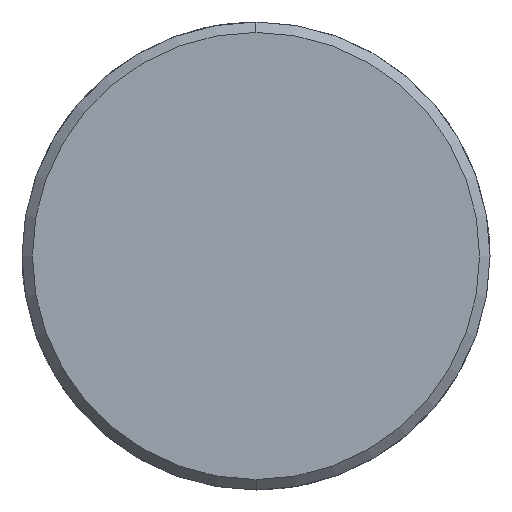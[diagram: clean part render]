
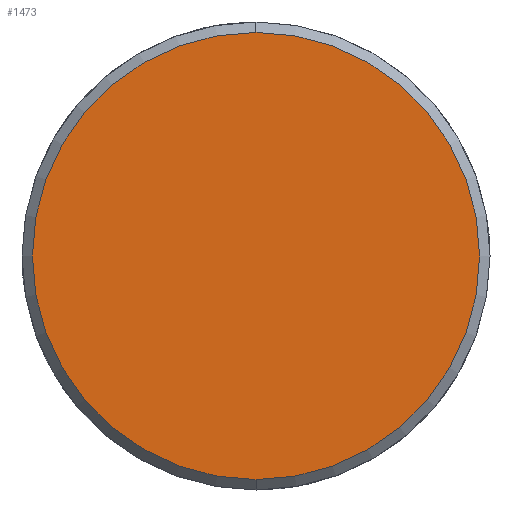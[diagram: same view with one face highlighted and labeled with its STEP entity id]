
A CAD part, left-side view. The second image highlights one B-rep face of the part: STEP entity #1473.
In plain terms, the highlighted planar face has unit normal (-1, 0, 0).
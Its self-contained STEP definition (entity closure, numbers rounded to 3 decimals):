
#1405=CARTESIAN_POINT('Vertex',(-7.,0.,-21.5)) ;
#1408=CARTESIAN_POINT('Axis2P3D Location',(-7.,0.,0.)) ;
#1412=CARTESIAN_POINT('Vertex',(-7.,21.5,0.)) ;
#1415=CARTESIAN_POINT('Axis2P3D Location',(-7.,0.,0.)) ;
#1419=CARTESIAN_POINT('Vertex',(-7.,0.,21.5)) ;
#1441=CARTESIAN_POINT('Axis2P3D Location',(-7.,0.,0.)) ;
#1445=CARTESIAN_POINT('Vertex',(-7.,-21.5,0.)) ;
#1448=CARTESIAN_POINT('Axis2P3D Location',(-7.,0.,0.)) ;
#1462=CARTESIAN_POINT('Axis2P3D Location',(-7.,0.,0.)) ;
#1409=DIRECTION('Axis2P3D Direction',(1.,0.,-0.)) ;
#1416=DIRECTION('Axis2P3D Direction',(1.,0.,-0.)) ;
#1442=DIRECTION('Axis2P3D Direction',(1.,0.,-0.)) ;
#1449=DIRECTION('Axis2P3D Direction',(1.,0.,-0.)) ;
#1463=DIRECTION('Axis2P3D Direction',(1.,0.,-0.)) ;
#1464=DIRECTION('Axis2P3D XDirection',(-0.,0.,-1.)) ;
#1410=AXIS2_PLACEMENT_3D('Circle Axis2P3D',#1408,#1409,$) ;
#1417=AXIS2_PLACEMENT_3D('Circle Axis2P3D',#1415,#1416,$) ;
#1443=AXIS2_PLACEMENT_3D('Circle Axis2P3D',#1441,#1442,$) ;
#1450=AXIS2_PLACEMENT_3D('Circle Axis2P3D',#1448,#1449,$) ;
#1465=AXIS2_PLACEMENT_3D('Plane Axis2P3D',#1462,#1463,#1464) ;
#1468=ORIENTED_EDGE('',*,*,#1414,.F.) ;
#1469=ORIENTED_EDGE('',*,*,#1452,.F.) ;
#1470=ORIENTED_EDGE('',*,*,#1447,.F.) ;
#1471=ORIENTED_EDGE('',*,*,#1421,.F.) ;
#1473=ADVANCED_FACE('351-32X96X300',(#1472),#1466,.F.) ;
#1411=CIRCLE('generated circle',#1410,21.5) ;
#1418=CIRCLE('generated circle',#1417,21.5) ;
#1444=CIRCLE('generated circle',#1443,21.5) ;
#1451=CIRCLE('generated circle',#1450,21.5) ;
#1414=EDGE_CURVE('',#1406,#1413,#1411,.T.) ;
#1421=EDGE_CURVE('',#1413,#1420,#1418,.T.) ;
#1447=EDGE_CURVE('',#1420,#1446,#1444,.T.) ;
#1452=EDGE_CURVE('',#1446,#1406,#1451,.T.) ;
#1467=EDGE_LOOP('',(#1468,#1469,#1470,#1471)) ;
#1472=FACE_OUTER_BOUND('',#1467,.T.) ;
#1466=PLANE('Plane',#1465) ;
#1406=VERTEX_POINT('',#1405) ;
#1413=VERTEX_POINT('',#1412) ;
#1420=VERTEX_POINT('',#1419) ;
#1446=VERTEX_POINT('',#1445) ;
